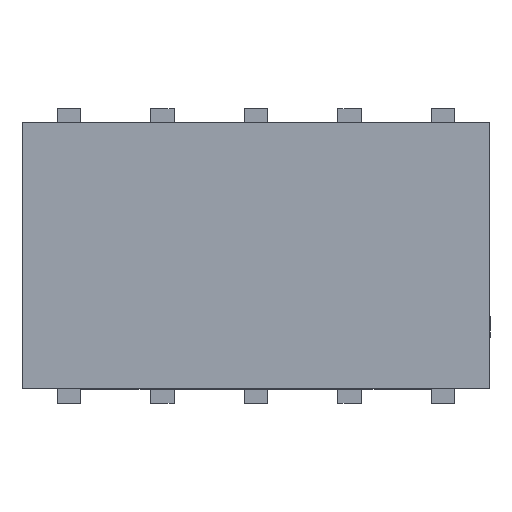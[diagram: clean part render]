
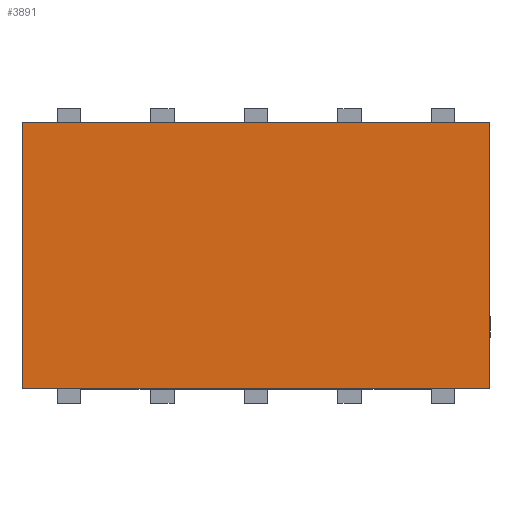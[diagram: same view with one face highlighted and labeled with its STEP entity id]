
A CAD part, top view. The second image highlights one B-rep face of the part: STEP entity #3891.
In plain terms, the highlighted planar face has unit normal (0, 0, 1) as drawn and (0, 1, 0) by its records, which use the part's own axes.
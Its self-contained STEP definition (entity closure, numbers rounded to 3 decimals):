
#301 = DIRECTION ( 'NONE',  ( 1., 0., 0. ) ) ;
#305 = CARTESIAN_POINT ( 'NONE',  ( 133.092, 48.32, 0. ) ) ;
#306 = LINE ( 'NONE', #305, #1883 ) ;
#313 = DIRECTION ( 'NONE',  ( 0., 0., 1. ) ) ;
#315 = CARTESIAN_POINT ( 'NONE',  ( 133.092, 48.32, 10. ) ) ;
#316 = LINE ( 'NONE', #315, #1888 ) ;
#322 = CARTESIAN_POINT ( 'NONE',  ( 133.092, 48.32, 10. ) ) ;
#323 = DIRECTION ( 'NONE',  ( -1., 0., 0. ) ) ;
#324 = CARTESIAN_POINT ( 'NONE',  ( 127.392, 48.32, 10. ) ) ;
#325 = LINE ( 'NONE', #324, #1895 ) ;
#326 = DIRECTION ( 'NONE',  ( 0., 0., -1. ) ) ;
#347 = LINE ( 'NONE', #322, #1909 ) ;
#1673 = AXIS2_PLACEMENT_3D ( 'NONE', #7697, #7672, #7668 ) ;
#1883 = VECTOR ( 'NONE', #301, 1000. ) ;
#1888 = VECTOR ( 'NONE', #313, 1000. ) ;
#1895 = VECTOR ( 'NONE', #326, 1000. ) ;
#1909 = VECTOR ( 'NONE', #323, 1000. ) ;
#2700 = EDGE_LOOP ( 'NONE', ( #6487, #6892, #6485, #6655 ) ) ;
#3778 = EDGE_CURVE ( 'NONE', #6206, #6034, #325, .T. ) ;
#3779 = EDGE_CURVE ( 'NONE', #6236, #6206, #347, .T. ) ;
#3782 = EDGE_CURVE ( 'NONE', #6280, #6236, #316, .T. ) ;
#3785 = EDGE_CURVE ( 'NONE', #6034, #6280, #306, .T. ) ;
#3891 = ADVANCED_FACE ( 'NONE', ( #7682 ), #7679, .F. ) ;
#4352 = CARTESIAN_POINT ( 'NONE',  ( 133.092, 48.32, 0. ) ) ;
#4414 = CARTESIAN_POINT ( 'NONE',  ( 133.092, 48.32, 10. ) ) ;
#4472 = CARTESIAN_POINT ( 'NONE',  ( 127.392, 48.32, 10. ) ) ;
#4687 = CARTESIAN_POINT ( 'NONE',  ( 127.392, 48.32, 0. ) ) ;
#6034 = VERTEX_POINT ( 'NONE', #4687 ) ;
#6206 = VERTEX_POINT ( 'NONE', #4472 ) ;
#6236 = VERTEX_POINT ( 'NONE', #4414 ) ;
#6280 = VERTEX_POINT ( 'NONE', #4352 ) ;
#6485 = ORIENTED_EDGE ( 'NONE', *, *, #3785, .F. ) ;
#6487 = ORIENTED_EDGE ( 'NONE', *, *, #3779, .F. ) ;
#6655 = ORIENTED_EDGE ( 'NONE', *, *, #3778, .F. ) ;
#6892 = ORIENTED_EDGE ( 'NONE', *, *, #3782, .F. ) ;
#7668 = DIRECTION ( 'NONE',  ( 0., 0., -1. ) ) ;
#7672 = DIRECTION ( 'NONE',  ( 0., -1., 0. ) ) ;
#7679 = PLANE ( 'NONE',  #1673 ) ;
#7682 = FACE_OUTER_BOUND ( 'NONE', #2700, .T. ) ;
#7697 = CARTESIAN_POINT ( 'NONE',  ( 133.092, 48.32, 10. ) ) ;
